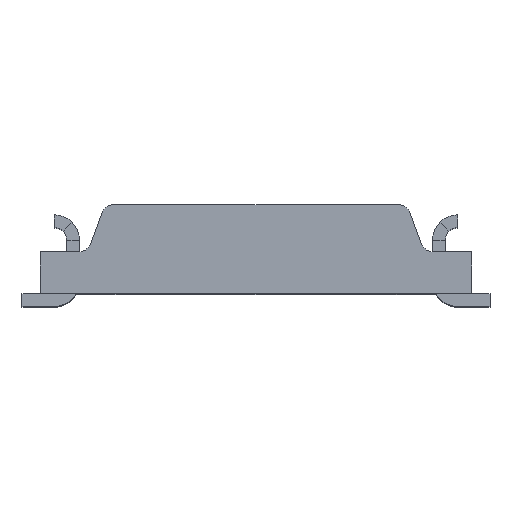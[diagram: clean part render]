
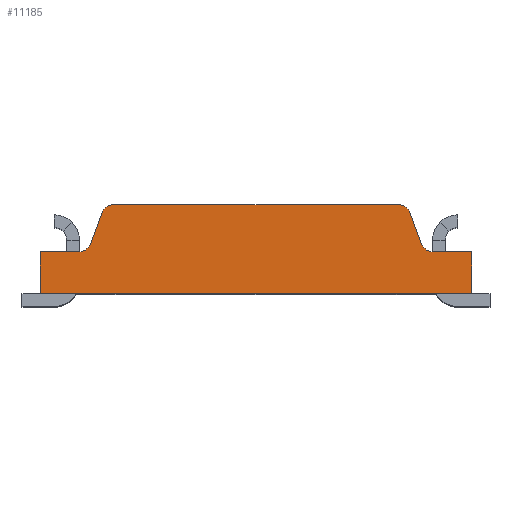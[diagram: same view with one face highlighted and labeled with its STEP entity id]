
A CAD part, top view. The second image highlights one B-rep face of the part: STEP entity #11185.
In plain terms, the highlighted planar face has unit normal (0, 0, 1).
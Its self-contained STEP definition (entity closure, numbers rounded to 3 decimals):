
#415 = EDGE_CURVE ( 'NONE', #16040, #6311, #2963, .T. ) ;
#494 = LINE ( 'NONE', #12709, #9596 ) ;
#640 = ORIENTED_EDGE ( 'NONE', *, *, #14789, .T. ) ;
#800 = CARTESIAN_POINT ( 'NONE',  ( -2.845, 1.524, 12.7 ) ) ;
#872 = DIRECTION ( 'NONE',  ( -1., 0., 0. ) ) ;
#935 = CARTESIAN_POINT ( 'NONE',  ( 4.318, 0.838, 12.7 ) ) ;
#938 = VERTEX_POINT ( 'NONE', #13092 ) ;
#988 = ORIENTED_EDGE ( 'NONE', *, *, #7876, .F. ) ;
#1945 = EDGE_CURVE ( 'NONE', #16040, #16982, #2088, .T. ) ;
#2088 = LINE ( 'NONE', #5533, #6684 ) ;
#2453 = DIRECTION ( 'NONE',  ( 1., 0., 0. ) ) ;
#2572 = VERTEX_POINT ( 'NONE', #5603 ) ;
#2740 = DIRECTION ( 'NONE',  ( 1., 0., 0. ) ) ;
#2963 = CIRCLE ( 'NONE', #7999, 0.254 ) ;
#3186 = VERTEX_POINT ( 'NONE', #19389 ) ;
#3338 = VERTEX_POINT ( 'NONE', #14379 ) ;
#3350 = CARTESIAN_POINT ( 'NONE',  ( 2.845, 1.524, 12.7 ) ) ;
#3352 = CARTESIAN_POINT ( 'NONE',  ( -3.304, 1.005, 12.7 ) ) ;
#3596 = DIRECTION ( 'NONE',  ( 0., -1., 0. ) ) ;
#3773 = LINE ( 'NONE', #8701, #12912 ) ;
#4281 = AXIS2_PLACEMENT_3D ( 'NONE', #16823, #6573, #18543 ) ;
#4561 = CARTESIAN_POINT ( 'NONE',  ( 4.318, 0.838, 12.7 ) ) ;
#4639 = DIRECTION ( 'NONE',  ( 0., 0., -1. ) ) ;
#5107 = DIRECTION ( 'NONE',  ( -1., 0., 0. ) ) ;
#5533 = CARTESIAN_POINT ( 'NONE',  ( 3.023, 1.778, 12.7 ) ) ;
#5555 = VERTEX_POINT ( 'NONE', #3352 ) ;
#5603 = CARTESIAN_POINT ( 'NONE',  ( 3.543, 0.838, 12.7 ) ) ;
#5763 = DIRECTION ( 'NONE',  ( 0.342, 0.94, 0. ) ) ;
#5894 = CIRCLE ( 'NONE', #11600, 0.254 ) ;
#6169 = DIRECTION ( 'NONE',  ( 0., 0., -1. ) ) ;
#6311 = VERTEX_POINT ( 'NONE', #17072 ) ;
#6338 = ORIENTED_EDGE ( 'NONE', *, *, #11069, .T. ) ;
#6573 = DIRECTION ( 'NONE',  ( 0., 0., 1. ) ) ;
#6684 = VECTOR ( 'NONE', #15788, 1000. ) ;
#6752 = ORIENTED_EDGE ( 'NONE', *, *, #1945, .F. ) ;
#7049 = EDGE_CURVE ( 'NONE', #12228, #12775, #494, .T. ) ;
#7071 = LINE ( 'NONE', #14312, #15635 ) ;
#7162 = CARTESIAN_POINT ( 'NONE',  ( 4.318, 0., 12.7 ) ) ;
#7532 = LINE ( 'NONE', #7162, #16613 ) ;
#7781 = FACE_OUTER_BOUND ( 'NONE', #20570, .T. ) ;
#7876 = EDGE_CURVE ( 'NONE', #3338, #938, #15391, .T. ) ;
#7972 = ORIENTED_EDGE ( 'NONE', *, *, #21523, .F. ) ;
#7999 = AXIS2_PLACEMENT_3D ( 'NONE', #800, #19266, #872 ) ;
#8468 = VECTOR ( 'NONE', #14949, 1000. ) ;
#8536 = EDGE_CURVE ( 'NONE', #5555, #938, #18790, .T. ) ;
#8701 = CARTESIAN_POINT ( 'NONE',  ( -4.318, 0.838, 12.7 ) ) ;
#9439 = ORIENTED_EDGE ( 'NONE', *, *, #8536, .T. ) ;
#9596 = VECTOR ( 'NONE', #2453, 1000. ) ;
#9925 = PLANE ( 'NONE',  #4281 ) ;
#10827 = VECTOR ( 'NONE', #21386, 1000. ) ;
#11069 = EDGE_CURVE ( 'NONE', #2572, #3186, #5894, .T. ) ;
#11185 = ADVANCED_FACE ( 'NONE', ( #7781 ), #9925, .T. ) ;
#11600 = AXIS2_PLACEMENT_3D ( 'NONE', #14889, #4639, #16607 ) ;
#11709 = CARTESIAN_POINT ( 'NONE',  ( 2.845, 1.778, 12.7 ) ) ;
#12228 = VERTEX_POINT ( 'NONE', #16695 ) ;
#12308 = EDGE_CURVE ( 'NONE', #16982, #18039, #15661, .T. ) ;
#12709 = CARTESIAN_POINT ( 'NONE',  ( 0., 0., 12.7 ) ) ;
#12775 = VERTEX_POINT ( 'NONE', #20046 ) ;
#12912 = VECTOR ( 'NONE', #20640, 1000. ) ;
#13092 = CARTESIAN_POINT ( 'NONE',  ( -3.543, 0.838, 12.7 ) ) ;
#13306 = CARTESIAN_POINT ( 'NONE',  ( 3.304, 1.005, 12.7 ) ) ;
#14312 = CARTESIAN_POINT ( 'NONE',  ( -3.023, 1.778, 12.7 ) ) ;
#14362 = VECTOR ( 'NONE', #2740, 1000. ) ;
#14379 = CARTESIAN_POINT ( 'NONE',  ( -4.318, 0.838, 12.7 ) ) ;
#14789 = EDGE_CURVE ( 'NONE', #3186, #18039, #22129, .T. ) ;
#14889 = CARTESIAN_POINT ( 'NONE',  ( 3.543, 1.092, 12.7 ) ) ;
#14894 = CARTESIAN_POINT ( 'NONE',  ( 3.083, 1.611, 12.7 ) ) ;
#14949 = DIRECTION ( 'NONE',  ( -0.342, 0.94, 0. ) ) ;
#15168 = ORIENTED_EDGE ( 'NONE', *, *, #12308, .F. ) ;
#15348 = DIRECTION ( 'NONE',  ( 0., 0., -1. ) ) ;
#15391 = LINE ( 'NONE', #17951, #10827 ) ;
#15635 = VECTOR ( 'NONE', #5763, 1000. ) ;
#15661 = CIRCLE ( 'NONE', #17344, 0.254 ) ;
#15788 = DIRECTION ( 'NONE',  ( 1., 0., 0. ) ) ;
#16040 = VERTEX_POINT ( 'NONE', #22041 ) ;
#16070 = AXIS2_PLACEMENT_3D ( 'NONE', #16427, #6169, #18157 ) ;
#16427 = CARTESIAN_POINT ( 'NONE',  ( -3.543, 1.092, 12.7 ) ) ;
#16607 = DIRECTION ( 'NONE',  ( 1., 0., 0. ) ) ;
#16613 = VECTOR ( 'NONE', #3596, 1000. ) ;
#16695 = CARTESIAN_POINT ( 'NONE',  ( -4.318, 0., 12.7 ) ) ;
#16823 = CARTESIAN_POINT ( 'NONE',  ( 0., 0., 12.7 ) ) ;
#16982 = VERTEX_POINT ( 'NONE', #11709 ) ;
#17072 = CARTESIAN_POINT ( 'NONE',  ( -3.083, 1.611, 12.7 ) ) ;
#17327 = ORIENTED_EDGE ( 'NONE', *, *, #20285, .F. ) ;
#17344 = AXIS2_PLACEMENT_3D ( 'NONE', #3350, #15348, #5107 ) ;
#17951 = CARTESIAN_POINT ( 'NONE',  ( -3.365, 0.838, 12.7 ) ) ;
#18039 = VERTEX_POINT ( 'NONE', #14894 ) ;
#18157 = DIRECTION ( 'NONE',  ( 1., 0., 0. ) ) ;
#18170 = ORIENTED_EDGE ( 'NONE', *, *, #415, .T. ) ;
#18543 = DIRECTION ( 'NONE',  ( 1., 0., 0. ) ) ;
#18790 = CIRCLE ( 'NONE', #16070, 0.254 ) ;
#18817 = EDGE_CURVE ( 'NONE', #20791, #12775, #7532, .T. ) ;
#18875 = ORIENTED_EDGE ( 'NONE', *, *, #21966, .F. ) ;
#18877 = LINE ( 'NONE', #4561, #14362 ) ;
#19266 = DIRECTION ( 'NONE',  ( 0., 0., 1. ) ) ;
#19369 = ORIENTED_EDGE ( 'NONE', *, *, #7049, .T. ) ;
#19389 = CARTESIAN_POINT ( 'NONE',  ( 3.304, 1.005, 12.7 ) ) ;
#20011 = ORIENTED_EDGE ( 'NONE', *, *, #18817, .F. ) ;
#20046 = CARTESIAN_POINT ( 'NONE',  ( 4.318, 0., 12.7 ) ) ;
#20285 = EDGE_CURVE ( 'NONE', #2572, #20791, #18877, .T. ) ;
#20570 = EDGE_LOOP ( 'NONE', ( #640, #15168, #6752, #18170, #7972, #9439, #988, #18875, #19369, #20011, #17327, #6338 ) ) ;
#20640 = DIRECTION ( 'NONE',  ( 0., 1., 0. ) ) ;
#20791 = VERTEX_POINT ( 'NONE', #935 ) ;
#21386 = DIRECTION ( 'NONE',  ( 1., 0., 0. ) ) ;
#21523 = EDGE_CURVE ( 'NONE', #5555, #6311, #7071, .T. ) ;
#21966 = EDGE_CURVE ( 'NONE', #12228, #3338, #3773, .T. ) ;
#22041 = CARTESIAN_POINT ( 'NONE',  ( -2.845, 1.778, 12.7 ) ) ;
#22129 = LINE ( 'NONE', #13306, #8468 ) ;
